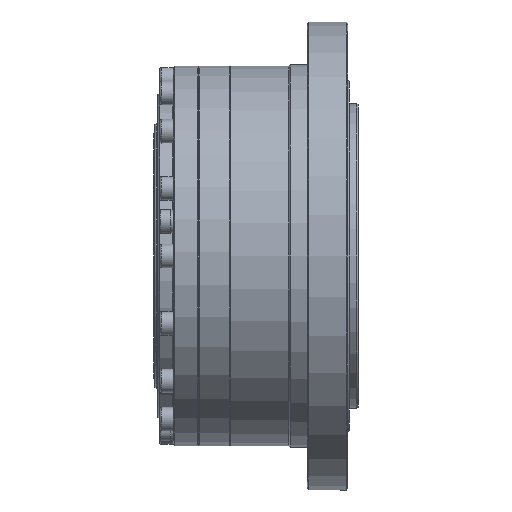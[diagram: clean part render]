
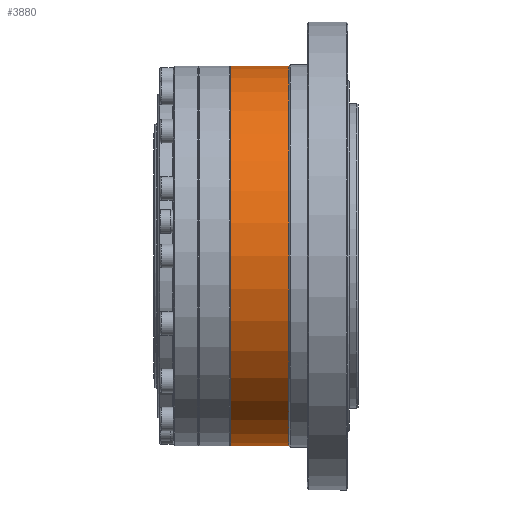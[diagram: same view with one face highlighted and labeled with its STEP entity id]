
A CAD part, front view. The second image highlights one B-rep face of the part: STEP entity #3880.
In plain terms, the highlighted cylindrical face has radius 56 mm (diameter 112 mm), a full revolution.
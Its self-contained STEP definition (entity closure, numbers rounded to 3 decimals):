
#3880=ADVANCED_FACE('',(#5588,#5589),#5129,.T.);
#5129=CYLINDRICAL_SURFACE('',#19223,56.);
#5588=FACE_BOUND('',#7570,.T.);
#5589=FACE_BOUND('',#7571,.T.);
#7570=EDGE_LOOP('',(#10496));
#7571=EDGE_LOOP('',(#10497));
#10496=ORIENTED_EDGE('',*,*,#15651,.T.);
#10497=ORIENTED_EDGE('',*,*,#15650,.F.);
#13943=VERTEX_POINT('',#30336);
#13944=VERTEX_POINT('',#30339);
#15650=EDGE_CURVE('',#13943,#13943,#17502,.T.);
#15651=EDGE_CURVE('',#13944,#13944,#17503,.T.);
#17502=CIRCLE('',#19220,56.);
#17503=CIRCLE('',#19222,56.);
#19220=AXIS2_PLACEMENT_3D('',#30335,#22328,#22329);
#19222=AXIS2_PLACEMENT_3D('',#30338,#22332,#22333);
#19223=AXIS2_PLACEMENT_3D('',#30340,#22334,#22335);
#22328=DIRECTION('',(-1.,0.,0.));
#22329=DIRECTION('',(0.,0.,1.));
#22332=DIRECTION('',(-1.,0.,0.));
#22333=DIRECTION('',(0.,0.,1.));
#22334=DIRECTION('',(-1.,0.,0.));
#22335=DIRECTION('',(0.,0.,1.));
#30335=CARTESIAN_POINT('',(-32.689,0.,0.135));
#30336=CARTESIAN_POINT('',(-32.689,0.,56.135));
#30338=CARTESIAN_POINT('',(-15.689,0.,0.135));
#30339=CARTESIAN_POINT('',(-15.689,0.,56.135));
#30340=CARTESIAN_POINT('',(-35.189,0.,0.135));
